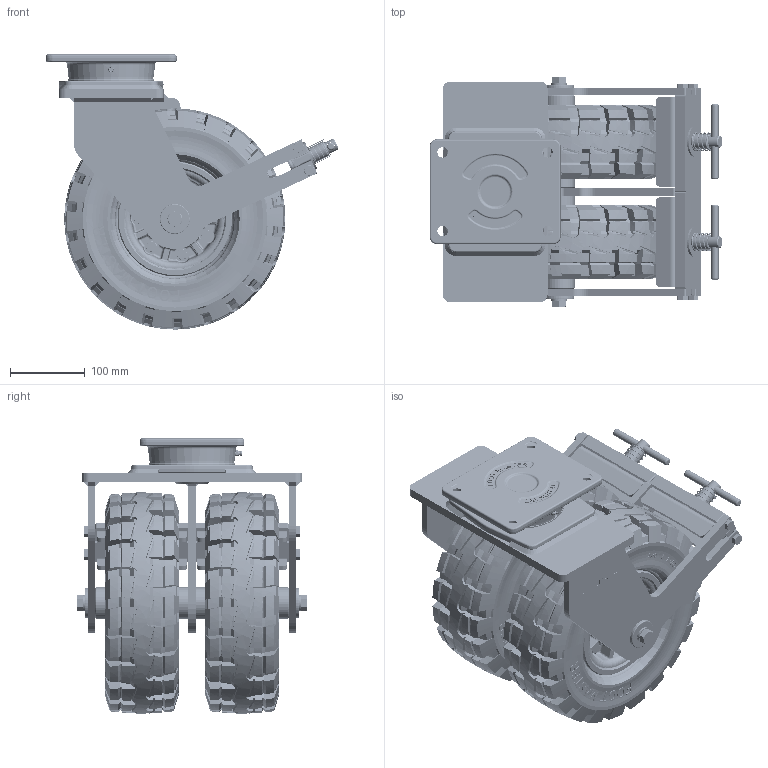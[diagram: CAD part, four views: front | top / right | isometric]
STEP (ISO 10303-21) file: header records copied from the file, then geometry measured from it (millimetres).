
FILE_DESCRIPTION(/* description */ (''),/* implementation_level */ '2;1');
FILE_NAME(/* name */ '\\192.168.10.38\지덕공유\1.기술연구소\2.연구개발 진행중\121.Solidtire caster_2024.11.22\제품설계\홈페이지용 도면\3D\GT-300\6.GTD-300-BSF-TRD.stp',/* time_stamp */ '2025-09-19T10:50:39+09:00',/* author */ ('admin'),/* organization */ (''),/* preprocessor_version */ 'ST-DEVELOPER v18.1',/* originating_system */ 'Autodesk Inventor 2021',/* authorisation */ '');
FILE_SCHEMA (('AUTOMOTIVE_DESIGN { 1 0 10303 214 3 1 1 }'));
Products named in the file (1): 6.GTD-300-BSF-TIRE-Rev01_2025.09.18_Shrinkwrap_1
Bounding box: 390.8 x 307 x 366.96 mm (x, y, z)
Volume: 13574968.2 mm3; surface area: 1034240.1 mm2
Topology: 3 solids, 4 shells, 7255 faces, 19599 edges, 12531 vertices
Faces by surface type: bspline 3276, plane 2129, cone 1088, torus 446, cylinder 315, sphere 1
Full cylindrical faces by diameter (mm): 1 x2, 6 x1, 8 x14, 10.2 x2, 12.5 x14, 14 x4, 16 x4, 17 x14, 20 x2, 24 x2, 29.9 x1, 40 x4, 42.7 x4, 113 x1, 114 x1, 160 x4
Entity records: 296919 total; most frequent: CARTESIAN_POINT 135322, ORIENTED_EDGE 38970, DIRECTION 21572, EDGE_CURVE 19485, VERTEX_POINT 12531, B_SPLINE_CURVE_WITH_KNOTS 9238, AXIS2_PLACEMENT_3D 7953, EDGE_LOOP 7594
